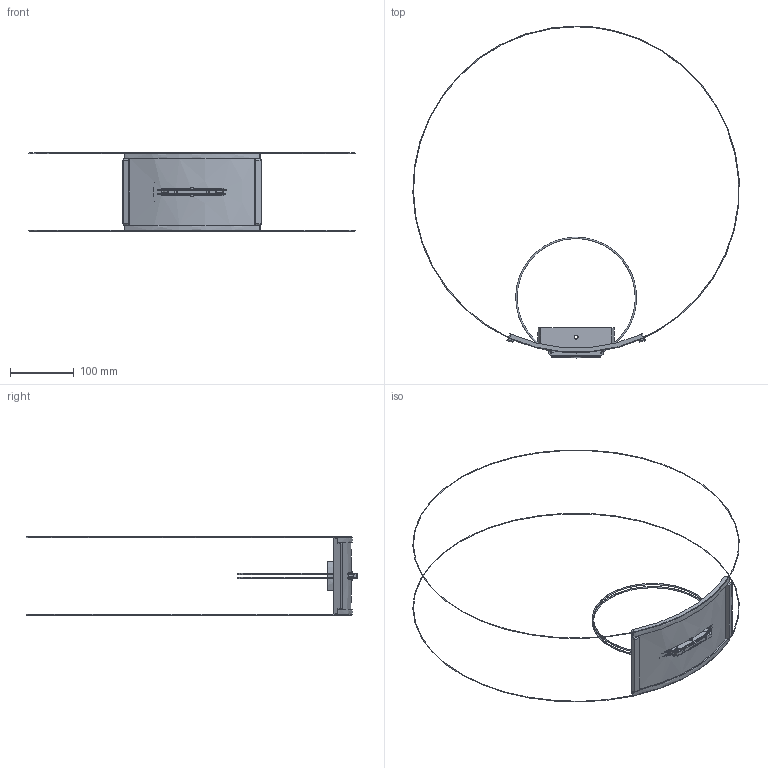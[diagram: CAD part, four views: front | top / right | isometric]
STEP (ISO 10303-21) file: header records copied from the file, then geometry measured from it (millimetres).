
FILE_DESCRIPTION((''),'2;1');
FILE_NAME('BEOSOUND_EDGE_SW','2018-05-23T',('VHK'),('Bang_&_Olufsen_A/S'),'CREO PARAMETRIC BY PTC INC, 2016260','CREO PARAMETRIC BY PTC INC, 2016260','');
FILE_SCHEMA(('CONFIG_CONTROL_DESIGN'));
Length unit declared in the file: millimetre
Products named in the file (1): BEOSOUND_EDGE_SW
Bounding box: 513.43 x 522.34 x 123 mm (x, y, z)
Surface area: 111120.9 mm2 (no closed solid volume)
Topology: 0 solids, 0 shells, 204 faces, 1062 edges, 1044 vertices
Faces by surface type: bspline 182, torus 22
Entity records: 20889 total; most frequent: CARTESIAN_POINT 11968, DIRECTION 1286, TRIMMED_CURVE 1102, DEFINITIONAL_REPRESENTATION 1026, PCURVE 1026, COMPOSITE_CURVE_SEGMENT 1026, VECTOR 962, LINE 962
